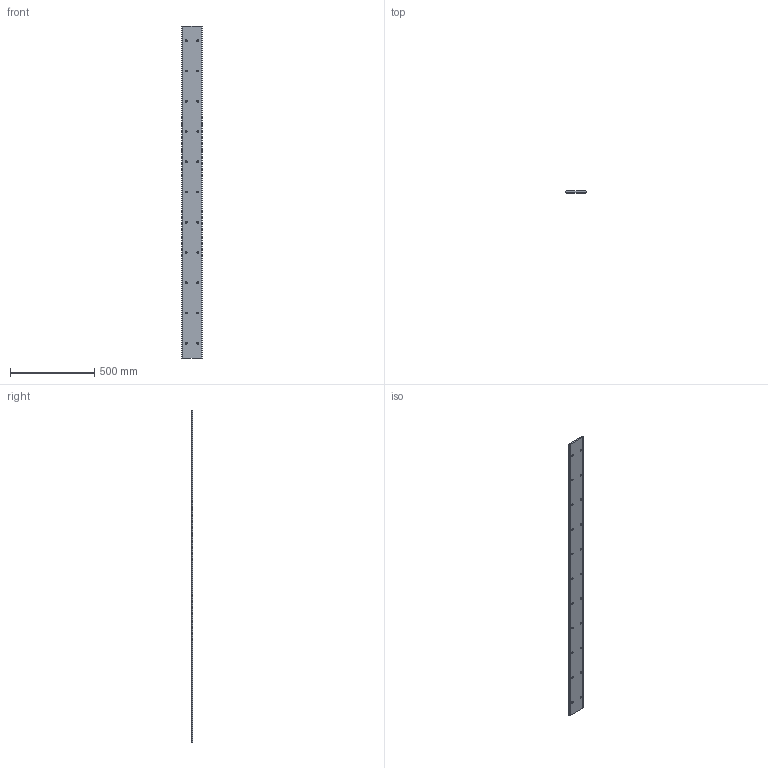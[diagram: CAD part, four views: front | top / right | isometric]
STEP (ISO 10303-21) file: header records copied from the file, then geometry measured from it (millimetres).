
FILE_DESCRIPTION(('STEP AP203'),'1');
FILE_NAME('slide_l120l1976p2.stp','2022-07-01T06:25:05',('TraceParts'),('TraceParts S.A.'),'Spatial InterOp 3D',' ',' ');
FILE_SCHEMA(('CONFIG_CONTROL_DESIGN'));
Length unit declared in the file: millimetre
Products named in the file (1): 1
Bounding box: 119.68 x 9.43 x 1976 mm (x, y, z)
Volume: 2103043.6 mm3; surface area: 491454.3 mm2
Topology: 1 solids, 1 shells, 56 faces, 162 edges, 108 vertices
Faces by surface type: cylinder 48, plane 8
Entity records: 2034 total; most frequent: DIRECTION 372, CARTESIAN_POINT 327, ORIENTED_EDGE 324, EDGE_CURVE 162, AXIS2_PLACEMENT_3D 153, VERTEX_POINT 108, EDGE_LOOP 100, CIRCLE 96
